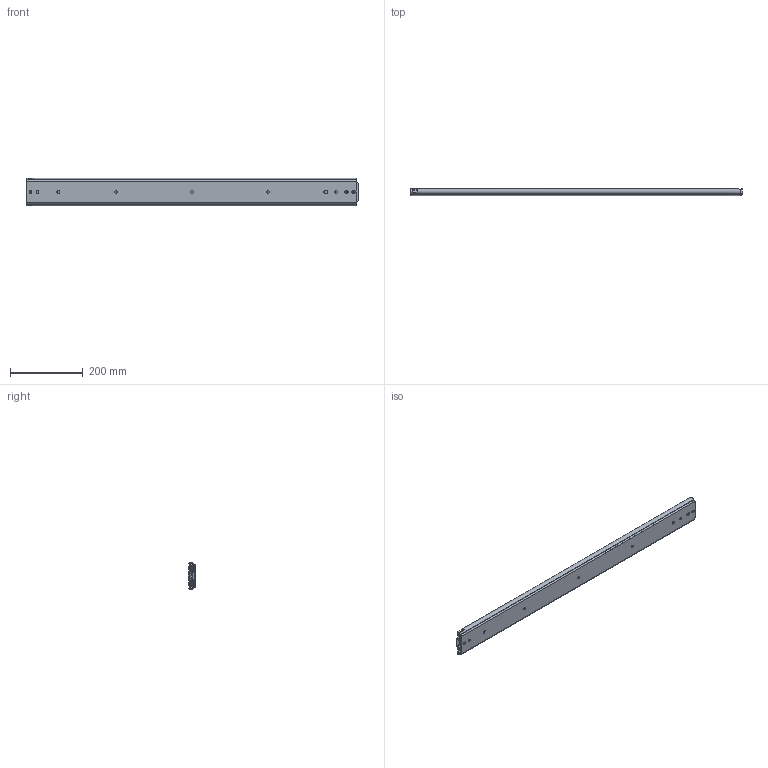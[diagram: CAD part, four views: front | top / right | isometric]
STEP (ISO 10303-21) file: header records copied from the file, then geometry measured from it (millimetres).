
FILE_DESCRIPTION((''),'2;1');
FILE_NAME('DG-76-02-40_ASM','2023-05-15T',('jishu015'),(''),'PRO/ENGINEER BY PARAMETRIC TECHNOLOGY CORPORATION, 2010280','PRO/ENGINEER BY PARAMETRIC TECHNOLOGY CORPORATION, 2010280','');
FILE_SCHEMA(('CONFIG_CONTROL_DESIGN'));
Length unit declared in the file: millimetre
Products named in the file (18): KP-76-04WAIKE3_______; 1076-WAIKEZIDANJIAO3_______; WAIK72________ASM; 1076XIAOZHUTIAO1_______; 163_______; 1076XIAOZHUTIAO1________ASM; KP-76-04ZHONGGUI3_______; 76CHANGGUIZHONGGUIJIAO3_______; 3X6WODIN3_______; PJ-76-33_______; 76-XIAOZHUJIA3_______; GANGZHU-XIAO3_______; ZHUJIA-XIAO3________ASM; ZHONGGUI3________ASM; KP-76-04NEIGUI3_______; XIN-TANPIAN_______; NEIGUI3________ASM; DG-76-02-40_ASM
Assembly tree (66 placements, depth 4):
  DG-76-02-40_ASM
    WAIK72________ASM
      KP-76-04WAIKE3_______
      1076-WAIKEZIDANJIAO3_______  x2
    1076XIAOZHUTIAO1________ASM  x2
      1076XIAOZHUTIAO1_______
      163_______
    ZHONGGUI3________ASM
      KP-76-04ZHONGGUI3_______
      76CHANGGUIZHONGGUIJIAO3_______
      3X6WODIN3_______
      PJ-76-33_______
      ZHUJIA-XIAO3________ASM
        76-XIAOZHUJIA3_______
        GANGZHU-XIAO3_______  x32
    NEIGUI3________ASM
      KP-76-04NEIGUI3_______
      XIN-TANPIAN_______
Bounding box: 914.4 x 19.5 x 75.3 mm (x, y, z)
Volume: 596077.8 mm3; surface area: 571221.1 mm2
Topology: 78 solids, 78 shells, 1700 faces, 5334 edges, 3367 vertices
Faces by surface type: plane 937, cylinder 563, sphere 134, extrusion 48, cone 18
Entity records: 51056 total; most frequent: CARTESIAN_POINT 11405, ORIENTED_EDGE 8716, DIRECTION 7794, EDGE_CURVE 4358, VERTEX_POINT 2851, AXIS2_PLACEMENT_3D 2603, VECTOR 2588, LINE 2540
